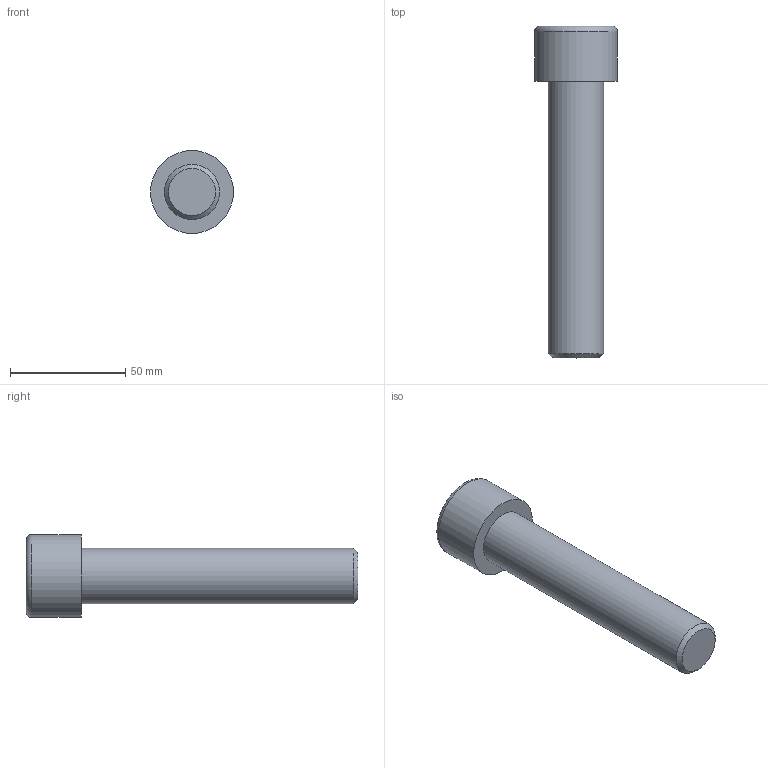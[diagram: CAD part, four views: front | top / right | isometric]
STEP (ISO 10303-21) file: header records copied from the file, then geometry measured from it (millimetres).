
FILE_DESCRIPTION(/* description */ (''),/* implementation_level */ '2;1');
FILE_NAME(/* name */ 'C:\Users\D\Documents\Inventor\各種小物\JIS\JIS B 1176 六角穴付きボルト\M24x120.stp',/* time_stamp */ '2022-05-09T18:59:49+09:00',/* author */ ('D'),/* organization */ (''),/* preprocessor_version */ 'ST-DEVELOPER v18',/* originating_system */ 'Autodesk Inventor 2020',/* authorisation */ '');
FILE_SCHEMA (('AUTOMOTIVE_DESIGN { 1 0 10303 214 3 1 1 }'));
Length unit declared in the file: millimetre
Products named in the file (1): M1.6x2.5
Bounding box: 36 x 144 x 36 mm (x, y, z)
Volume: 73931.2 mm3; surface area: 14468 mm2
Topology: 1 solids, 1 shells, 14 faces, 33 edges, 22 vertices
Faces by surface type: plane 9, cone 2, cylinder 2, torus 1
Full cylindrical faces by diameter (mm): 24 x1, 36 x1
Entity records: 435 total; most frequent: CARTESIAN_POINT 83, ORIENTED_EDGE 64, DIRECTION 64, EDGE_CURVE 32, AXIS2_PLACEMENT_3D 24, VERTEX_POINT 22, EDGE_LOOP 16, LINE 16
